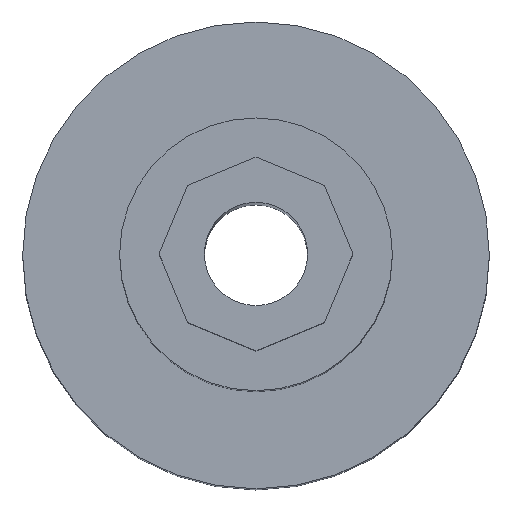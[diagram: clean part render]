
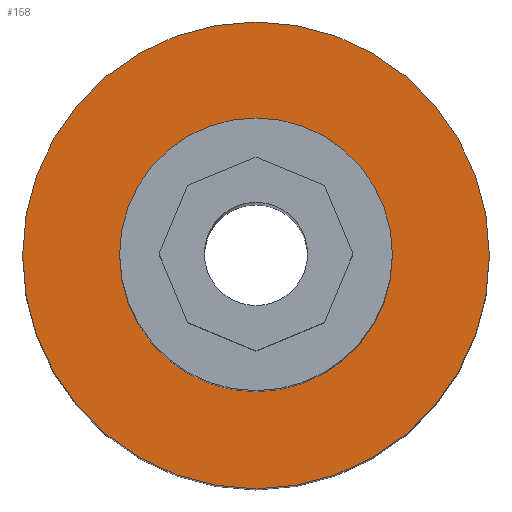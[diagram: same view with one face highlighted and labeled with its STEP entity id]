
A CAD part, top view. The second image highlights one B-rep face of the part: STEP entity #158.
In plain terms, the highlighted planar face has unit normal (0, 0, 1).
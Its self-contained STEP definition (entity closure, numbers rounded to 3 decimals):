
#24 = VERTEX_POINT('',#25);
#25 = CARTESIAN_POINT('',(18.315,0.,54.7));
#32 = CYLINDRICAL_SURFACE('',#33,18.315);
#33 = AXIS2_PLACEMENT_3D('',#34,#35,#36);
#34 = CARTESIAN_POINT('',(0.,0.,0.));
#35 = DIRECTION('',(-0.,-0.,-1.));
#36 = DIRECTION('',(1.,0.,0.));
#51 = EDGE_CURVE('',#24,#24,#52,.T.);
#52 = SURFACE_CURVE('',#53,(#58,#65),.PCURVE_S1.);
#53 = CIRCLE('',#54,18.315);
#54 = AXIS2_PLACEMENT_3D('',#55,#56,#57);
#55 = CARTESIAN_POINT('',(0.,0.,54.7));
#56 = DIRECTION('',(0.,0.,1.));
#57 = DIRECTION('',(1.,0.,0.));
#58 = PCURVE('',#32,#59);
#59 = DEFINITIONAL_REPRESENTATION('',(#60),#64);
#60 = LINE('',#61,#62);
#61 = CARTESIAN_POINT('',(-0.,-54.7));
#62 = VECTOR('',#63,1.);
#63 = DIRECTION('',(-1.,0.));
#64 = ( GEOMETRIC_REPRESENTATION_CONTEXT(2) 
PARAMETRIC_REPRESENTATION_CONTEXT() REPRESENTATION_CONTEXT('2D SPACE',''
  ) );
#65 = PCURVE('',#66,#71);
#66 = PLANE('',#67);
#67 = AXIS2_PLACEMENT_3D('',#68,#69,#70);
#68 = CARTESIAN_POINT('',(0.,0.,54.7));
#69 = DIRECTION('',(0.,0.,1.));
#70 = DIRECTION('',(1.,0.,-0.));
#71 = DEFINITIONAL_REPRESENTATION('',(#72),#76);
#72 = CIRCLE('',#73,18.315);
#73 = AXIS2_PLACEMENT_2D('',#74,#75);
#74 = CARTESIAN_POINT('',(0.,0.));
#75 = DIRECTION('',(1.,0.));
#76 = ( GEOMETRIC_REPRESENTATION_CONTEXT(2) 
PARAMETRIC_REPRESENTATION_CONTEXT() REPRESENTATION_CONTEXT('2D SPACE',''
  ) );
#158 = ADVANCED_FACE('',(#159,#162),#66,.T.);
#159 = FACE_BOUND('',#160,.T.);
#160 = EDGE_LOOP('',(#161));
#161 = ORIENTED_EDGE('',*,*,#51,.T.);
#162 = FACE_BOUND('',#163,.T.);
#163 = EDGE_LOOP('',(#164));
#164 = ORIENTED_EDGE('',*,*,#165,.F.);
#165 = EDGE_CURVE('',#166,#166,#168,.T.);
#166 = VERTEX_POINT('',#167);
#167 = CARTESIAN_POINT('',(10.7,0.,54.7));
#168 = SURFACE_CURVE('',#169,(#174,#181),.PCURVE_S1.);
#169 = CIRCLE('',#170,10.7);
#170 = AXIS2_PLACEMENT_3D('',#171,#172,#173);
#171 = CARTESIAN_POINT('',(0.,0.,54.7));
#172 = DIRECTION('',(0.,0.,1.));
#173 = DIRECTION('',(1.,0.,0.));
#174 = PCURVE('',#66,#175);
#175 = DEFINITIONAL_REPRESENTATION('',(#176),#180);
#176 = CIRCLE('',#177,10.7);
#177 = AXIS2_PLACEMENT_2D('',#178,#179);
#178 = CARTESIAN_POINT('',(0.,0.));
#179 = DIRECTION('',(1.,0.));
#180 = ( GEOMETRIC_REPRESENTATION_CONTEXT(2) 
PARAMETRIC_REPRESENTATION_CONTEXT() REPRESENTATION_CONTEXT('2D SPACE',''
  ) );
#181 = PCURVE('',#182,#187);
#182 = CYLINDRICAL_SURFACE('',#183,10.7);
#183 = AXIS2_PLACEMENT_3D('',#184,#185,#186);
#184 = CARTESIAN_POINT('',(0.,0.,54.7));
#185 = DIRECTION('',(-0.,-0.,-1.));
#186 = DIRECTION('',(1.,0.,0.));
#187 = DEFINITIONAL_REPRESENTATION('',(#188),#192);
#188 = LINE('',#189,#190);
#189 = CARTESIAN_POINT('',(-0.,0.));
#190 = VECTOR('',#191,1.);
#191 = DIRECTION('',(-1.,0.));
#192 = ( GEOMETRIC_REPRESENTATION_CONTEXT(2) 
PARAMETRIC_REPRESENTATION_CONTEXT() REPRESENTATION_CONTEXT('2D SPACE',''
  ) );
